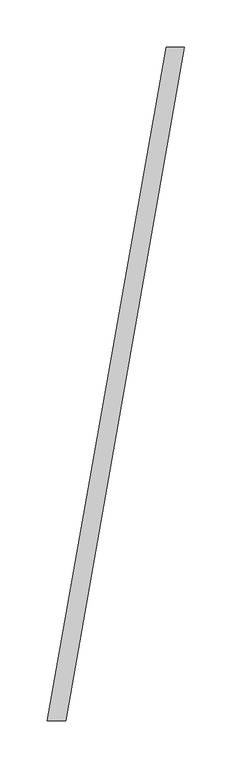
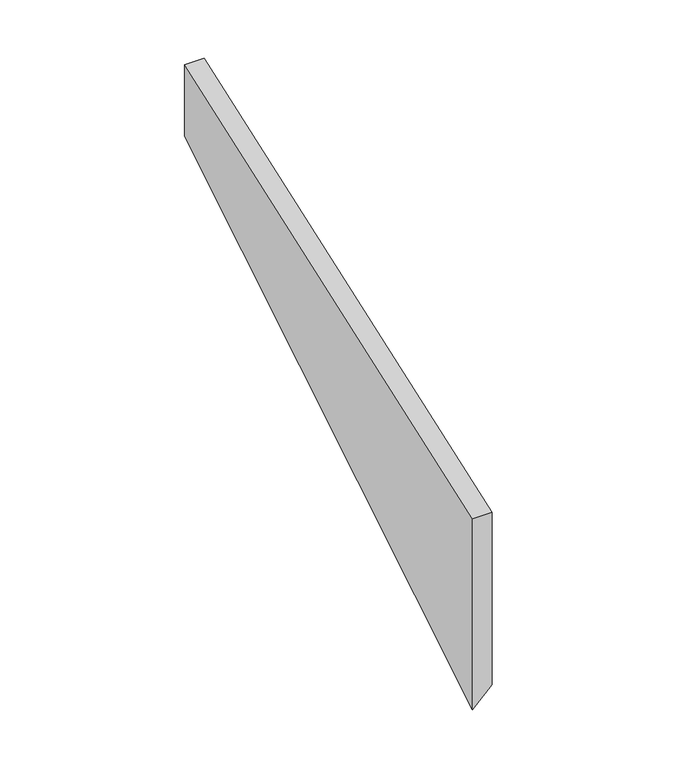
"""IFC4 building model written with IfcOpenShell, lengths in millimetres: proxy geometry, GRADIENT^TABLE 7_PYRAMID BASES-CTR BASE LEFT WING."""

from ifc_helpers import new_model, si_unit, origin, place, context, project, spatial, faceted_brep, source, transform, mapped, element, save


def generic_models_b4308882(model_context):
    return source(origin(), model_context, "Body", "Brep", [
        faceted_brep([(2030.4037487, 0.0, -866.775), (1905.0, -711.2, -866.775), (1924.343877, -711.2, -866.775), (2049.7476256, 0.0, -866.775), (2049.7476256, 0.0, -922.0523744), (2030.4037487, 0.0, -941.3962513), (1905.0, -711.2, -1066.8), (1924.343877, -711.2, -1047.456123)], [[[0, 1, 2, 3]], [[3, 4, 5, 0]], [[0, 5, 6, 1]], [[2, 1, 6, 7]], [[4, 3, 2, 7]], [[6, 5, 4, 7]]]),
    ])


if __name__ == "__main__":
    model = new_model("IFC4")
    model_context = context("Model", 3, world=origin())
    ifc_project = project(units=[si_unit("LENGTHUNIT", "METRE", prefix="MILLI")], contexts=[model_context])
    site = spatial("IfcSite", under=ifc_project)
    building = spatial("IfcBuilding", under=site)
    placement = place(None, origin())
    generic_models_shape = generic_models_b4308882(model_context)
    element("IfcBuildingElementProxy", 1, Name="GRADIENT^TABLE 7_PYRAMID BASES-CTR BASE LEFT WING", ObjectType="GRADIENT^TABLE 7_PYRAMID BASES-CTR BASE LEFT WING", at=placement, inside=building, context=model_context, shape_type="MappedRepresentation", body=[
        mapped(generic_models_shape, transform((0.0, 0.0, 0.0), x_axis=(1.0, 0.0, 0.0), y_axis=(0.0, 1.0, 0.0), z_axis=(0.0, 0.0, 1.0))),
    ])
    save(model, "model.ifc")
